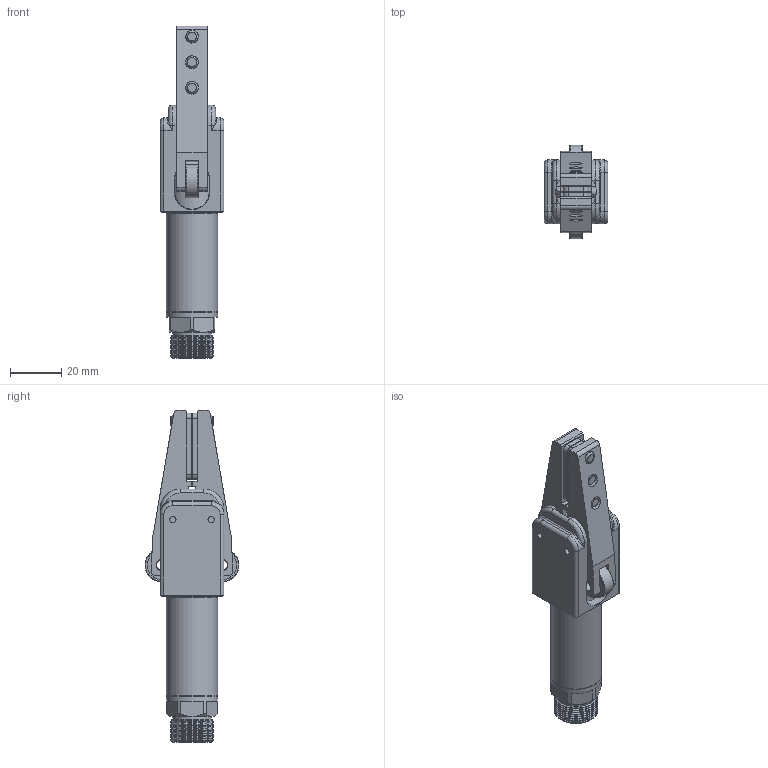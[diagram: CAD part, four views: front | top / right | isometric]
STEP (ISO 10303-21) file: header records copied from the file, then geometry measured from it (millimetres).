
FILE_DESCRIPTION(/* description */ (''),/* implementation_level */ '2;1');
FILE_NAME(/* name */ 'GRT20D.stp',/* time_stamp */ '2023-03-09T11:13:19+08:00',/* author */ (''),/* organization */ (''),/* preprocessor_version */ 'ST-DEVELOPER v16',/* originating_system */ 'SIEMENS PLM Software NX 10.0',/* authorisation */ '');
FILE_SCHEMA (('AUTOMOTIVE_DESIGN { 1 0 10303 214 3 1 1 1 }'));
Length unit declared in the file: millimetre
Products named in the file (1): Admi115498B06jua
Bounding box: 25 x 36.74 x 129.96 mm (x, y, z)
Volume: 44896.9 mm3; surface area: 19860.8 mm2
Topology: 4 solids, 6 shells, 479 faces, 1185 edges, 745 vertices
Faces by surface type: plane 200, cylinder 144, cone 91, revolution 28, bspline 8, torus 8
Full cylindrical faces by diameter (mm): 0.5 x1, 1 x1, 2 x1, 2.5 x2, 3 x2, 3.4 x1, 3.5 x12, 4 x12, 5 x6, 5.54 x1, 6.4 x4, 8 x2, 8.8 x3, 15 x1, 16 x1, 17 x8, 20 x2
Entity records: 17424 total; most frequent: CARTESIAN_POINT 3352, DIRECTION 2251, ORIENTED_EDGE 2000, EDGE_CURVE 1000, AXIS2_PLACEMENT_3D 874, VERTEX_POINT 703, EDGE_LOOP 686, PRESENTATION_STYLE_ASSIGNMENT 480
